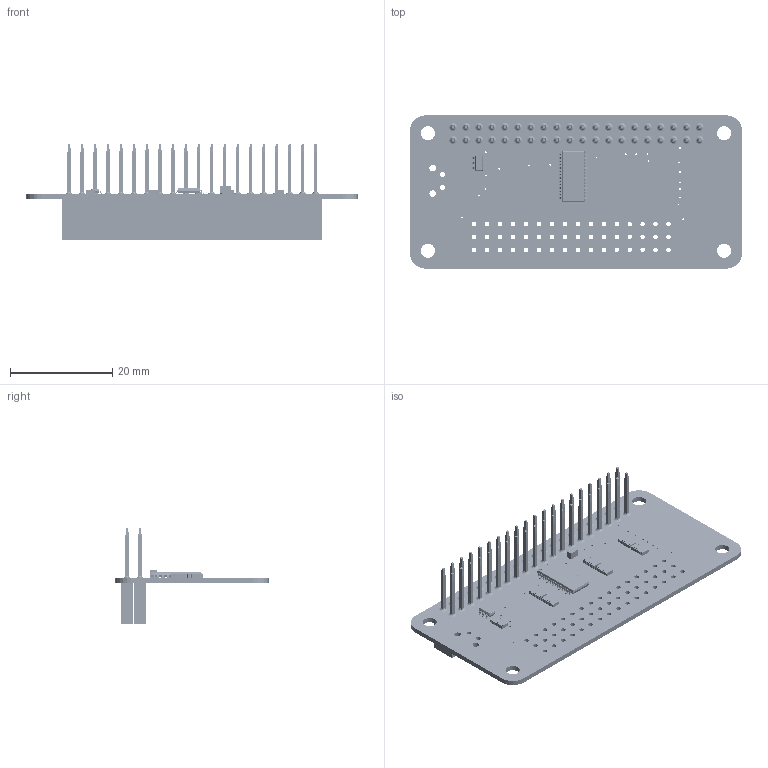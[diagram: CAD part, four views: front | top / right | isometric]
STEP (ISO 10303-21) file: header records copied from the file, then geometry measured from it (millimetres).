
FILE_DESCRIPTION(/* description */ (''),/* implementation_level */ '2;1');
FILE_NAME(/* name */ 'C:/Users/andrew/Desktop/3D Models/servo-pi-zero-1.0.step',/* time_stamp */ '2018-02-10T15:37:05+00:00',/* author */ ('and101'),/* organization */ (''),/* preprocessor_version */ 'ST-DEVELOPER v16.13',/* originating_system */ 'Autodesk Translation Framework v6.5.0.72',/* authorisation */ '');
FILE_SCHEMA (('AUTOMOTIVE_DESIGN { 1 0 10303 214 3 1 1 }'));
Products named in the file (7): servo-pi-zero-1.0; Board_servo-pi-zero-1; sot23-6; cap_0805; rescav-8_1.6x3.2x0; 40_way_header; tssop-28
Assembly tree (12 placements, depth 2):
  servo-pi-zero-1.0
    Board_servo-pi-zero-1
    sot23-6
    cap_0805
    rescav-8_1.6x3.2x0  x7
    40_way_header
    tssop-28
Bounding box: 65 x 30 x 18.97 mm (x, y, z)
Volume: 4826.5 mm3; surface area: 9314.5 mm2
Topology: 258 solids, 258 shells, 38279 faces, 57983 edges, 20212 vertices
Faces by surface type: plane 38097, cylinder 146, bspline 36
Full cylindrical faces by diameter (mm): 0.35 x30, 0.9 x48, 1 x42, 1.3 x2, 2.75 x4
Entity records: 535929 total; most frequent: DIRECTION 95567, CARTESIAN_POINT 83955, ORIENTED_EDGE 82182, EDGE_CURVE 41091, LINE 40467, VECTOR 40467, AXIS2_PLACEMENT_3D 27550, EDGE_LOOP 27275
